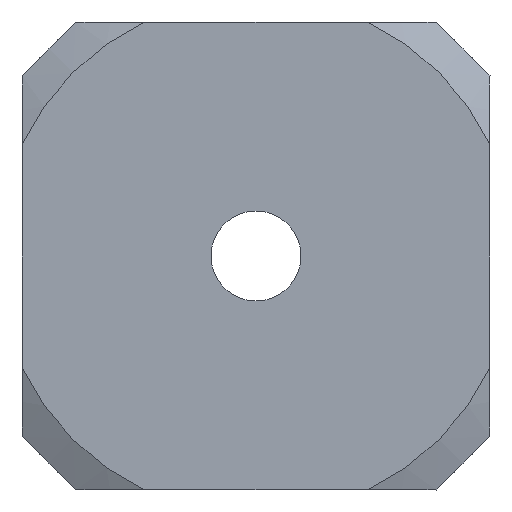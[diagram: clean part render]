
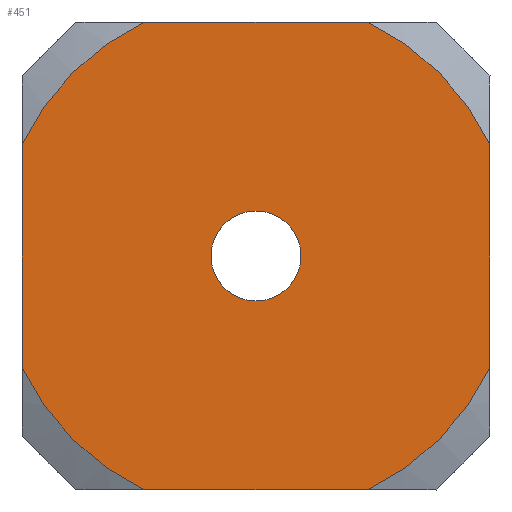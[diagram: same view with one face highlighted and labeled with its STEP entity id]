
A CAD part, front view. The second image highlights one B-rep face of the part: STEP entity #451.
In plain terms, the highlighted planar face has unit normal (0, -1, 0).
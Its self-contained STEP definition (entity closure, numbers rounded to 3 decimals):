
#36 = CARTESIAN_POINT ( 'NONE',  ( -3.097, 0., 6.5 ) ) ;
#41 = LINE ( 'NONE', #284, #47 ) ;
#47 = VECTOR ( 'NONE', #507, 1000. ) ;
#48 = LINE ( 'NONE', #695, #752 ) ;
#50 = EDGE_CURVE ( 'NONE', #233, #621, #742, .T. ) ;
#60 = CARTESIAN_POINT ( 'NONE',  ( 0., 0., 0. ) ) ;
#90 = CARTESIAN_POINT ( 'NONE',  ( -6.5, 0., 3.097 ) ) ;
#91 = CARTESIAN_POINT ( 'NONE',  ( 0., 0., -1.25 ) ) ;
#92 = VERTEX_POINT ( 'NONE', #593 ) ;
#95 = VECTOR ( 'NONE', #377, 1000. ) ;
#102 = CARTESIAN_POINT ( 'NONE',  ( 6.5, 0., -3.097 ) ) ;
#118 = AXIS2_PLACEMENT_3D ( 'NONE', #180, #242, #654 ) ;
#120 = EDGE_CURVE ( 'NONE', #621, #233, #509, .T. ) ;
#126 = DIRECTION ( 'NONE',  ( 0., 0., 1. ) ) ;
#129 = DIRECTION ( 'NONE',  ( 0., -1., 0. ) ) ;
#136 = ORIENTED_EDGE ( 'NONE', *, *, #642, .T. ) ;
#174 = DIRECTION ( 'NONE',  ( 0., 0., -1. ) ) ;
#180 = CARTESIAN_POINT ( 'NONE',  ( 0., 0., 0. ) ) ;
#187 = CARTESIAN_POINT ( 'NONE',  ( 0., 0., 0. ) ) ;
#188 = EDGE_LOOP ( 'NONE', ( #537, #282 ) ) ;
#190 = DIRECTION ( 'NONE',  ( 0., -1., 0. ) ) ;
#191 = DIRECTION ( 'NONE',  ( 0., 0., 1. ) ) ;
#203 = LINE ( 'NONE', #387, #95 ) ;
#218 = CARTESIAN_POINT ( 'NONE',  ( 0., 0., 0. ) ) ;
#225 = VERTEX_POINT ( 'NONE', #338 ) ;
#226 = DIRECTION ( 'NONE',  ( 0., -1., 0. ) ) ;
#227 = ORIENTED_EDGE ( 'NONE', *, *, #544, .T. ) ;
#228 = FACE_OUTER_BOUND ( 'NONE', #462, .T. ) ;
#233 = VERTEX_POINT ( 'NONE', #91 ) ;
#234 = ORIENTED_EDGE ( 'NONE', *, *, #721, .T. ) ;
#242 = DIRECTION ( 'NONE',  ( 0., -1., 0. ) ) ;
#245 = EDGE_CURVE ( 'NONE', #225, #350, #41, .T. ) ;
#252 = ORIENTED_EDGE ( 'NONE', *, *, #622, .T. ) ;
#275 = AXIS2_PLACEMENT_3D ( 'NONE', #187, #716, #191 ) ;
#282 = ORIENTED_EDGE ( 'NONE', *, *, #50, .T. ) ;
#284 = CARTESIAN_POINT ( 'NONE',  ( 0., 0., -6.5 ) ) ;
#291 = DIRECTION ( 'NONE',  ( -1., 0., 0. ) ) ;
#312 = CARTESIAN_POINT ( 'NONE',  ( -6.5, 0., -3.097 ) ) ;
#320 = VERTEX_POINT ( 'NONE', #482 ) ;
#331 = CIRCLE ( 'NONE', #539, 7.2 ) ;
#338 = CARTESIAN_POINT ( 'NONE',  ( -3.097, 0., -6.5 ) ) ;
#349 = CARTESIAN_POINT ( 'NONE',  ( -6.5, 0., 0. ) ) ;
#350 = VERTEX_POINT ( 'NONE', #729 ) ;
#356 = AXIS2_PLACEMENT_3D ( 'NONE', #708, #190, #426 ) ;
#362 = CIRCLE ( 'NONE', #118, 7.2 ) ;
#377 = DIRECTION ( 'NONE',  ( 0., 0., 1. ) ) ;
#385 = VERTEX_POINT ( 'NONE', #90 ) ;
#387 = CARTESIAN_POINT ( 'NONE',  ( 6.5, 0., 0. ) ) ;
#390 = VERTEX_POINT ( 'NONE', #36 ) ;
#397 = CARTESIAN_POINT ( 'NONE',  ( 0., 0., 0. ) ) ;
#400 = DIRECTION ( 'NONE',  ( 0., 0., 1. ) ) ;
#419 = CIRCLE ( 'NONE', #356, 7.2 ) ;
#426 = DIRECTION ( 'NONE',  ( 0., 0., 1. ) ) ;
#431 = VERTEX_POINT ( 'NONE', #102 ) ;
#437 = CIRCLE ( 'NONE', #565, 7.2 ) ;
#451 = ADVANCED_FACE ( 'NONE', ( #228, #520 ), #632, .T. ) ;
#453 = AXIS2_PLACEMENT_3D ( 'NONE', #397, #226, #623 ) ;
#462 = EDGE_LOOP ( 'NONE', ( #628, #227, #690, #136, #234, #252, #495, #570 ) ) ;
#463 = DIRECTION ( 'NONE',  ( 0., -1., 0. ) ) ;
#473 = CARTESIAN_POINT ( 'NONE',  ( 0., 0., 0. ) ) ;
#482 = CARTESIAN_POINT ( 'NONE',  ( 6.5, 0., 3.097 ) ) ;
#495 = ORIENTED_EDGE ( 'NONE', *, *, #569, .T. ) ;
#507 = DIRECTION ( 'NONE',  ( 1., 0., 0. ) ) ;
#509 = CIRCLE ( 'NONE', #275, 1.25 ) ;
#514 = EDGE_CURVE ( 'NONE', #385, #751, #558, .T. ) ;
#520 = FACE_BOUND ( 'NONE', #188, .T. ) ;
#522 = DIRECTION ( 'NONE',  ( 0., 0., 1. ) ) ;
#537 = ORIENTED_EDGE ( 'NONE', *, *, #120, .T. ) ;
#539 = AXIS2_PLACEMENT_3D ( 'NONE', #60, #129, #522 ) ;
#544 = EDGE_CURVE ( 'NONE', #751, #225, #437, .T. ) ;
#558 = LINE ( 'NONE', #349, #663 ) ;
#565 = AXIS2_PLACEMENT_3D ( 'NONE', #218, #463, #400 ) ;
#569 = EDGE_CURVE ( 'NONE', #92, #390, #48, .T. ) ;
#570 = ORIENTED_EDGE ( 'NONE', *, *, #669, .T. ) ;
#593 = CARTESIAN_POINT ( 'NONE',  ( 3.097, 0., 6.5 ) ) ;
#621 = VERTEX_POINT ( 'NONE', #647 ) ;
#622 = EDGE_CURVE ( 'NONE', #320, #92, #331, .T. ) ;
#623 = DIRECTION ( 'NONE',  ( 0., 0., -1. ) ) ;
#628 = ORIENTED_EDGE ( 'NONE', *, *, #514, .T. ) ;
#632 = PLANE ( 'NONE',  #453 ) ;
#642 = EDGE_CURVE ( 'NONE', #350, #431, #419, .T. ) ;
#645 = DIRECTION ( 'NONE',  ( 0., 1., 0. ) ) ;
#647 = CARTESIAN_POINT ( 'NONE',  ( 0., 0., 1.25 ) ) ;
#654 = DIRECTION ( 'NONE',  ( -1., 0., 0. ) ) ;
#663 = VECTOR ( 'NONE', #174, 1000. ) ;
#669 = EDGE_CURVE ( 'NONE', #390, #385, #362, .T. ) ;
#690 = ORIENTED_EDGE ( 'NONE', *, *, #245, .T. ) ;
#695 = CARTESIAN_POINT ( 'NONE',  ( 0., 0., 6.5 ) ) ;
#700 = AXIS2_PLACEMENT_3D ( 'NONE', #473, #645, #126 ) ;
#708 = CARTESIAN_POINT ( 'NONE',  ( 0., 0., 0. ) ) ;
#716 = DIRECTION ( 'NONE',  ( 0., 1., 0. ) ) ;
#721 = EDGE_CURVE ( 'NONE', #431, #320, #203, .T. ) ;
#729 = CARTESIAN_POINT ( 'NONE',  ( 3.097, 0., -6.5 ) ) ;
#742 = CIRCLE ( 'NONE', #700, 1.25 ) ;
#751 = VERTEX_POINT ( 'NONE', #312 ) ;
#752 = VECTOR ( 'NONE', #291, 1000. ) ;
